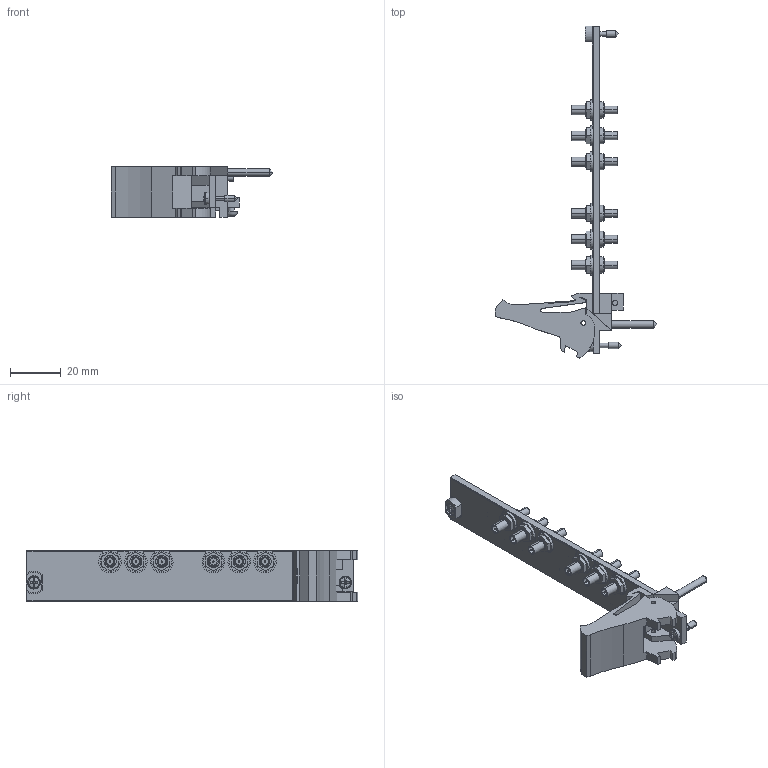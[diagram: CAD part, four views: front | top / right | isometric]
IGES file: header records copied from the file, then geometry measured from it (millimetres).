
Start section:  PTC IGES file: cu_pxi-2559.igs
Global section: file name: cu_pxi-2559.igs; native system: Pro/ENGINEER by Parametric Technology Corporation; preprocessor: 2006080; author: jjorden; organization: Unknown; date: 090916.134306; units: inch
Bounding box: 63.53 x 130.5 x 20.02 mm (x, y, z)
Surface area: 14907.5 mm2 (no closed solid volume)
Topology: 0 solids, 0 shells, 582 faces, 2764 edges, 2756 vertices
Faces by surface type: bspline 350, revolution 232
